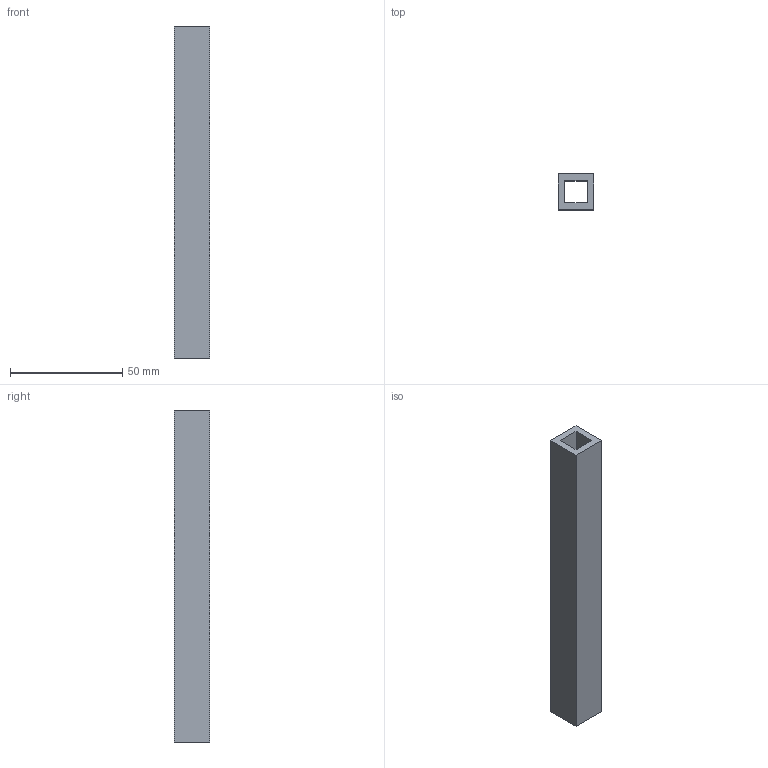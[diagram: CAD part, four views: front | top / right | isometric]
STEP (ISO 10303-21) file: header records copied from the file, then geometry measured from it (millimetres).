
FILE_DESCRIPTION(('Open CASCADE Model'),'2;1');
FILE_NAME('Open CASCADE Shape Model','2026-10-04T01:02:33',('Author'),( 'Open CASCADE'),'Open CASCADE STEP processor 8.0','Open CASCADE 8.0' ,'Unknown');
FILE_SCHEMA(('AUTOMOTIVE_DESIGN { 1 0 10303 214 1 1 1 1 }'));
Length unit declared in the file: millimetre
Products named in the file (1): Open CASCADE STEP translator 8.0 342
Bounding box: 16 x 16 x 148 mm (x, y, z)
Volume: 23088 mm3; surface area: 15704 mm2
Topology: 1 solids, 1 shells, 10 faces, 24 edges, 16 vertices
Faces by surface type: plane 10
Entity records: 614 total; most frequent: CARTESIAN_POINT 99, DIRECTION 94, LINE 72, VECTOR 72, ORIENTED_EDGE 48, PCURVE 48, DEFINITIONAL_REPRESENTATION 48, EDGE_CURVE 24
